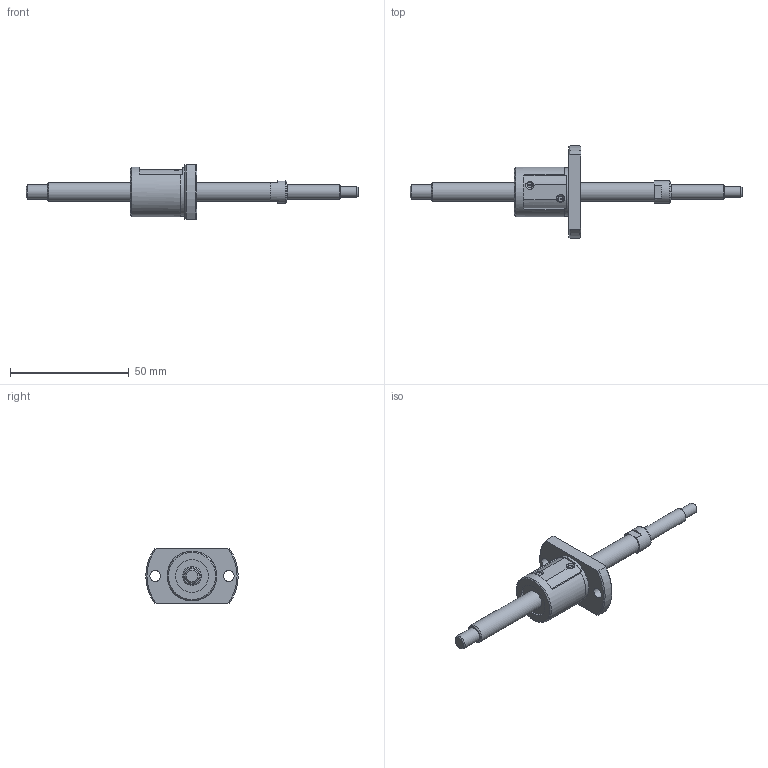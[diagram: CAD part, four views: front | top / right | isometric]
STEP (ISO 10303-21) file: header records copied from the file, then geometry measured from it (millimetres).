
FILE_DESCRIPTION(/* description */ ('STEP AP214'),/* implementation_level */ '2;1');
FILE_NAME(/* name */ 'SG0804-089R140C5C0X(35)',/* time_stamp */ '2026-07-21T16:50:06+02:00',/* author */ ('License CC BY-ND 4.0'),/* organization */ ('CADENAS'),/* preprocessor_version */ 'ST-DEVELOPER v20',/* originating_system */ 'PARTsolutions',/* authorisation */ ' ');
FILE_SCHEMA (('AUTOMOTIVE_DESIGN {1 0 10303 214 3 1 1}'));
Length unit declared in the file: millimetre
Products named in the file (3): SG0804-089R140C5C0X(35); SG0804-89R140C5C_shaft; SG0804 C5_nut
Assembly tree (2 placements, depth 2):
  SG0804-089R140C5C0X(35)
    SG0804-89R140C5C_shaft
    SG0804 C5_nut
Bounding box: 140 x 39 x 23 mm (x, y, z)
Volume: 16363.1 mm3; surface area: 7872.1 mm2
Topology: 2 solids, 2 shells, 75 faces, 182 edges, 119 vertices
Faces by surface type: plane 36, cylinder 24, cone 14, torus 1
Full cylindrical faces by diameter (mm): 4.5 x3, 6 x2, 8 x2, 9.5 x1, 14 x2, 20.5 x1, 21 x1
Entity records: 2117 total; most frequent: CARTESIAN_POINT 396, DIRECTION 358, ORIENTED_EDGE 298, EDGE_CURVE 149, AXIS2_PLACEMENT_3D 149, EDGE_LOOP 112, FACE_BOUND 112, VERTEX_POINT 109
